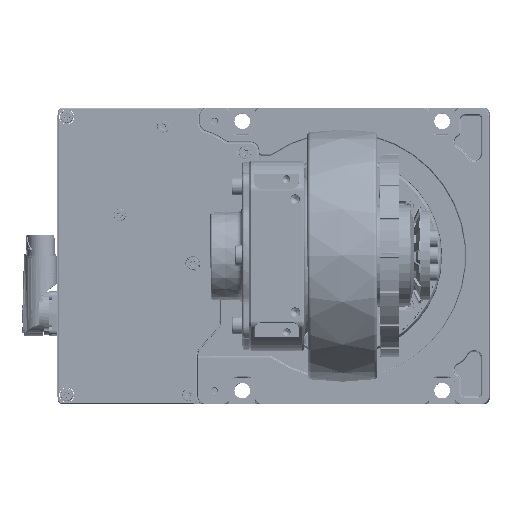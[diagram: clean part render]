
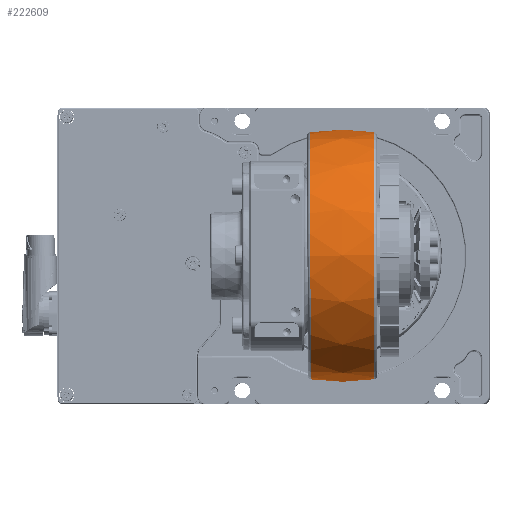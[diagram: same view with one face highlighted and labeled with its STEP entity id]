
A CAD part, top view. The second image highlights one B-rep face of the part: STEP entity #222609.
In plain terms, the highlighted free-form (B-spline) face has degree [2, 2] with [3, 9] control points.
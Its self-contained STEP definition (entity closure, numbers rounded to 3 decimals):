
#387=(
BOUNDED_SURFACE()
B_SPLINE_SURFACE(2,2,((#482254,#482255,#482256,#482257,#482258,#482259,
#482260,#482261,#482262),(#482263,#482264,#482265,#482266,#482267,#482268,
#482269,#482270,#482271),(#482272,#482273,#482274,#482275,#482276,#482277,
#482278,#482279,#482280)),.UNSPECIFIED.,.F.,.T.,.F.)
B_SPLINE_SURFACE_WITH_KNOTS((3,3),(3,2,2,2,3),(-0.153,0.153),
(-3.142,-1.571,0.,1.571,3.142),
 .UNSPECIFIED.)
GEOMETRIC_REPRESENTATION_ITEM()
RATIONAL_B_SPLINE_SURFACE(((1.,0.707,1.,0.707,1.,
0.707,1.,0.707,1.),(0.988,0.699,
0.988,0.699,0.988,0.699,
0.988,0.699,0.988),(1.,0.707,
1.,0.707,1.,0.707,1.,0.707,1.)))
REPRESENTATION_ITEM('')
SURFACE()
);
#21010=FACE_OUTER_BOUND('',#34343,.T.);
#34343=EDGE_LOOP('',(#183193,#183194,#183195,#183196));
#51344=CIRCLE('',#240134,71.096);
#51345=CIRCLE('',#240135,120.);
#51346=CIRCLE('',#240136,71.096);
#99371=VERTEX_POINT('',#482251);
#99372=VERTEX_POINT('',#482281);
#128094=EDGE_CURVE('',#99371,#99371,#51344,.T.);
#128095=EDGE_CURVE('',#99371,#99372,#51345,.T.);
#128096=EDGE_CURVE('',#99372,#99372,#51346,.T.);
#183193=ORIENTED_EDGE('',*,*,#128094,.F.);
#183194=ORIENTED_EDGE('',*,*,#128095,.T.);
#183195=ORIENTED_EDGE('',*,*,#128096,.T.);
#183196=ORIENTED_EDGE('',*,*,#128095,.F.);
#222609=ADVANCED_FACE('',(#21010),#387,.F.);
#240134=AXIS2_PLACEMENT_3D('',#482253,#287071,#287072);
#240135=AXIS2_PLACEMENT_3D('',#482282,#287073,#287074);
#240136=AXIS2_PLACEMENT_3D('',#482283,#287075,#287076);
#287071=DIRECTION('center_axis',(1.,0.002,
0.));
#287072=DIRECTION('ref_axis',(0.,0.,
1.));
#287073=DIRECTION('center_axis',(-0.002,1.,
0.));
#287074=DIRECTION('ref_axis',(0.,0.,
-1.));
#287075=DIRECTION('center_axis',(1.,0.002,
0.));
#287076=DIRECTION('ref_axis',(0.,0.,
1.));
#482251=CARTESIAN_POINT('',(18.305,0.044,12.954));
#482253=CARTESIAN_POINT('Origin',(18.305,0.044,84.05));
#482254=CARTESIAN_POINT('Ctrl Pts',(-18.305,-0.044,
12.954));
#482255=CARTESIAN_POINT('Ctrl Pts',(-18.477,71.051,
12.954));
#482256=CARTESIAN_POINT('Ctrl Pts',(-18.477,71.051,84.05));
#482257=CARTESIAN_POINT('Ctrl Pts',(-18.477,71.051,
155.146));
#482258=CARTESIAN_POINT('Ctrl Pts',(-18.305,-0.044,
155.146));
#482259=CARTESIAN_POINT('Ctrl Pts',(-18.134,-71.14,
155.146));
#482260=CARTESIAN_POINT('Ctrl Pts',(-18.134,-71.14,
84.05));
#482261=CARTESIAN_POINT('Ctrl Pts',(-18.134,-71.14,
12.954));
#482262=CARTESIAN_POINT('Ctrl Pts',(-18.305,-0.044,
12.954));
#482263=CARTESIAN_POINT('Ctrl Pts',(0.,0.,
10.129));
#482264=CARTESIAN_POINT('Ctrl Pts',(-0.178,73.921,
10.129));
#482265=CARTESIAN_POINT('Ctrl Pts',(-0.178,73.921,
84.05));
#482266=CARTESIAN_POINT('Ctrl Pts',(-0.178,73.921,
157.971));
#482267=CARTESIAN_POINT('Ctrl Pts',(0.,0.,
157.971));
#482268=CARTESIAN_POINT('Ctrl Pts',(0.178,-73.921,
157.971));
#482269=CARTESIAN_POINT('Ctrl Pts',(0.178,-73.921,
84.05));
#482270=CARTESIAN_POINT('Ctrl Pts',(0.178,-73.921,
10.129));
#482271=CARTESIAN_POINT('Ctrl Pts',(0.,0.,
10.129));
#482272=CARTESIAN_POINT('Ctrl Pts',(18.305,0.044,
12.954));
#482273=CARTESIAN_POINT('Ctrl Pts',(18.134,71.14,12.954));
#482274=CARTESIAN_POINT('Ctrl Pts',(18.134,71.14,84.05));
#482275=CARTESIAN_POINT('Ctrl Pts',(18.134,71.14,155.146));
#482276=CARTESIAN_POINT('Ctrl Pts',(18.305,0.044,
155.146));
#482277=CARTESIAN_POINT('Ctrl Pts',(18.477,-71.051,
155.146));
#482278=CARTESIAN_POINT('Ctrl Pts',(18.477,-71.051,
84.05));
#482279=CARTESIAN_POINT('Ctrl Pts',(18.477,-71.051,
12.954));
#482280=CARTESIAN_POINT('Ctrl Pts',(18.305,0.044,
12.954));
#482281=CARTESIAN_POINT('',(-18.305,-0.044,12.954));
#482282=CARTESIAN_POINT('Origin',(0.,0.,
131.55));
#482283=CARTESIAN_POINT('Origin',(-18.305,-0.044,
84.05));
